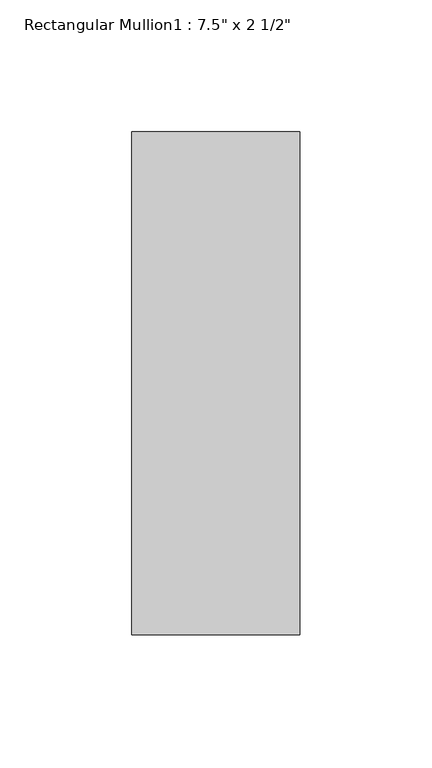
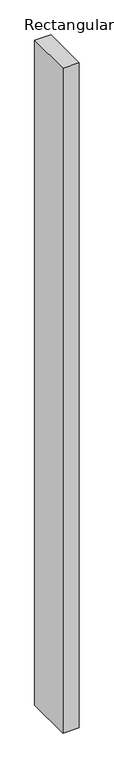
"""IFC4 building model written with IfcOpenShell, lengths in millimetres: member geometry."""

from ifc_helpers import new_model, si_unit, frame, origin, place, context, project, spatial, polyline, outline, extrude, source, transform, mapped, element, save


def member_dd4f45ab(model_context):
    return source(origin(), model_context, "Body", "SweptSolid", [
        extrude(outline(polyline([(-63.5, -165.1), (-63.5, 25.4), (0.0, 25.4), (0.0, -165.1), (-63.5, -165.1)])), frame((0.0, 0.0, -2743.2000017), z_axis=(0.0, 0.0, 1.0), x_axis=(1.0, 0.0, 0.0)), (0.0, 0.0, 1.0), 2743.2000017),
    ])


if __name__ == "__main__":
    model = new_model("IFC4")
    model_context = context("Model", 3, world=origin())
    ifc_project = project(units=[si_unit("LENGTHUNIT", "METRE", prefix="MILLI")], contexts=[model_context])
    site = spatial("IfcSite", under=ifc_project)
    building = spatial("IfcBuilding", under=site)
    placement = place(None, origin())
    member_shape = member_dd4f45ab(model_context)
    element("IfcMember", 1, ObjectType="Rectangular Mullion1 : 7.5\" x 2 1/2\"", at=placement, inside=building, context=model_context, shape_type="MappedRepresentation", body=[
        mapped(member_shape, transform((0.0, 0.0, 0.0), x_axis=(1.0, 0.0, 0.0), y_axis=(0.0, 1.0, 0.0), z_axis=(0.0, 0.0, 1.0))),
    ])
    save(model, "model.ifc")
